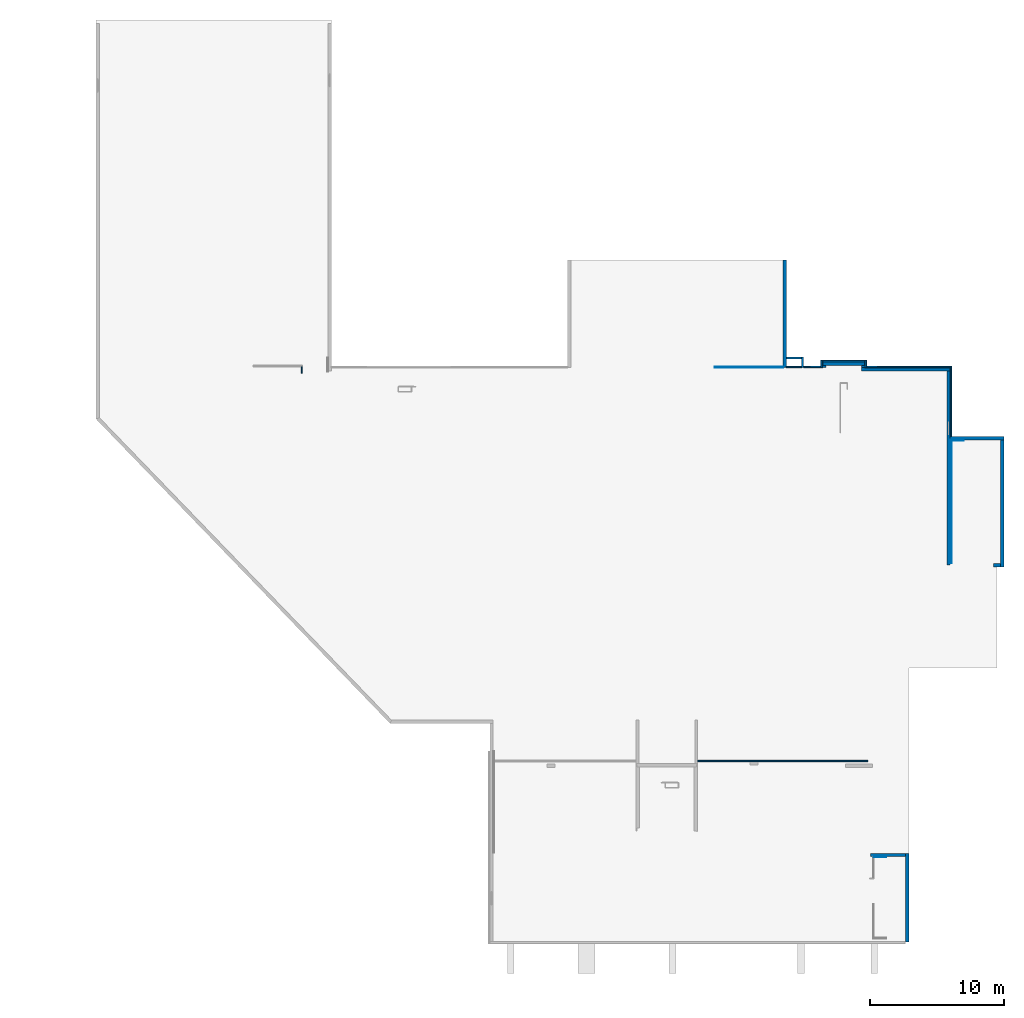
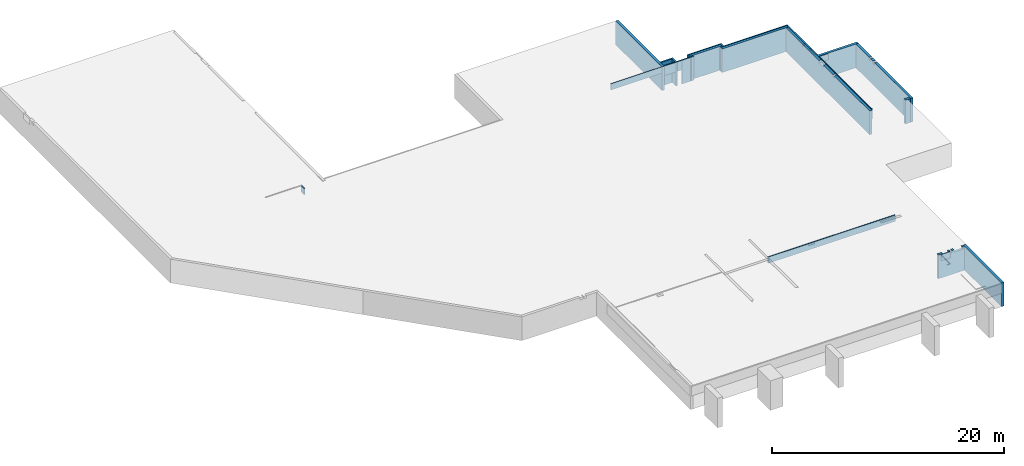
# One storey, part 5 of 10: 29 walls, 13 openings.
"""IFC2X3 building model written with IfcOpenShell, lengths in millimetres."""

from ifc_helpers import new_model, entity, si_unit, converted_unit, frame, frame_2d, origin, origin_with_axes, place, context, subcontext, project, spatial, polyline, rectangle, outline, extrude, faceted_brep, material, layer, layer_set, layer_usage, element, save


model = new_model("IFC2X3")

# Units and contexts
model_context = context("Model", 3, precision=1e-05, world=origin())
body_context = subcontext(model_context, "Body", "Model", "MODEL_VIEW")
ifc_project = project(units=[si_unit("LENGTHUNIT", "METRE", prefix="MILLI"), converted_unit("PLANEANGLEUNIT", "DEGREE", entity("IfcPlaneAngleMeasure", 0.0174532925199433), si_unit("PLANEANGLEUNIT", "RADIAN"), dimensions=[0, 0, 0, 0, 0, 0, 0]), si_unit("AREAUNIT", "SQUARE_METRE"), si_unit("VOLUMEUNIT", "CUBIC_METRE")], contexts=[model_context])

# Building, storey
building_placement = place(None, origin())
building = spatial("IfcBuilding", under=ifc_project, at=building_placement, Name="Gebäude", CompositionType="ELEMENT")
storey_placement = place(building_placement, frame((0.0, 0.0, -3205.0), z_axis=(0.0, 0.0, 1.0), x_axis=(1.0, 0.0, 0.0)))
storey = spatial("IfcBuildingStorey", under=building, at=storey_placement, Name="KG.- Grundriss", CompositionType="ELEMENT", Elevation=-3205.0)

# Walls
ifc_material_1 = material(Name="<Unnamed Material>")
ifc_layer_1 = layer(ifc_material_1, 60.0)
ifc_layer_set_1 = layer_set([ifc_layer_1])
ifc_layer_usage_1 = layer_usage(ifc_layer_set_1, "AXIS2", "POSITIVE", 0.0)
wall_1_placement = place(storey_placement, frame((258862.6842014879, 127805.0661829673, 5055.0), z_axis=(0.0, 0.0, 1.0), x_axis=(1.0, 0.0, 0.0)))
element("IfcWallStandardCase", 1, at=wall_1_placement, inside=storey, material=ifc_layer_usage_1, Name="<Unnamed Element>", context=body_context, shape_type="SweptSolid", body=[
    extrude(rectangle(XDim=5084.999999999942, YDim=60.0, at=frame_2d((2542.499999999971, 30.0), x_axis=(1.0, 0.0))), origin_with_axes(), (0.0, 0.0, 1.0), 650.0),
])
ifc_material_2 = material(Name="<Unnamed Material>")
ifc_layer_2 = layer(ifc_material_2, 60.0)
ifc_layer_set_2 = layer_set([ifc_layer_2])
ifc_layer_usage_2 = layer_usage(ifc_layer_set_2, "AXIS2", "POSITIVE", 0.0)
wall_2_placement = place(storey_placement, frame((277372.6842014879, 122435.0661829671, 5055.0), z_axis=(0.0, 0.0, 1.0), x_axis=(-1.0, 0.0, 0.0)))
element("IfcWallStandardCase", 2, at=wall_2_placement, inside=storey, material=ifc_layer_usage_2, Name="<Unnamed Element>", context=body_context, shape_type="SweptSolid", body=[
    extrude(rectangle(XDim=880.0, YDim=60.0, at=frame_2d((440.0, 30.0), x_axis=(1.0, 0.0))), origin_with_axes(), (0.0, 0.0, 1.0), 650.0),
])
ifc_material_3 = material(Name="<Unnamed Material>")
ifc_layer_3 = layer(ifc_material_3, 60.0)
ifc_layer_set_3 = layer_set([ifc_layer_3])
ifc_layer_usage_3 = layer_usage(ifc_layer_set_3, "AXIS2", "POSITIVE", 0.0)
wall_3_placement = place(storey_placement, frame((271607.7052904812, 91445.06618296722, 5055.0), z_axis=(0.0, 0.0, 1.0), x_axis=(-1.0, 1.590373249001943e-14, 0.0)))
element("IfcWallStandardCase", 3, at=wall_3_placement, inside=storey, material=ifc_layer_usage_3, Name="<Unnamed Element>", context=body_context, shape_type="SweptSolid", body=[
    extrude(rectangle(XDim=914.9999999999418, YDim=60.0, at=frame_2d((457.4999999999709, 30.0), x_axis=(1.0, 0.0))), origin_with_axes(), (0.0, 0.0, 1.0), 650.0),
])
ifc_material_4 = material(Name="<Unnamed Material>")
ifc_layer_4 = layer(ifc_material_4, 100.0)
ifc_layer_set_4 = layer_set([ifc_layer_4])
ifc_layer_usage_4 = layer_usage(ifc_layer_set_4, "AXIS2", "POSITIVE", 0.0)
wall_4_placement = place(storey_placement, frame((228107.684201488, 127880.0661829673, 5055.0), z_axis=(0.0, 0.0, 1.0), x_axis=(9.31155362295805e-13, -1.0, 0.0)))
element("IfcWallStandardCase", 4, at=wall_4_placement, inside=storey, material=ifc_layer_usage_4, Name="<Unnamed Element>", context=body_context, shape_type="SweptSolid", body=[
    extrude(outline(polyline([(0.0, 0.0), (500.0897875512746, 0.0), (500.0948599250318, 100.0), (5.804044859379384e-12, 100.0), (0.0, 0.0)])), origin_with_axes(), (0.0, 0.0, 1.0), 650.0),
])
ifc_material_5 = material(Name="<Unnamed Material>")
ifc_layer_5 = layer(ifc_material_5, 100.0)
ifc_layer_set_5 = layer_set([ifc_layer_5])
ifc_layer_usage_5 = layer_usage(ifc_layer_set_5, "AXIS2", "POSITIVE", 0.0)
wall_5_placement = place(storey_placement, frame((257582.7052904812, 98495.06618296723, 5055.0), z_axis=(0.0, 0.0, 1.0), x_axis=(1.0, 0.0, 0.0)))
element("IfcWallStandardCase", 5, at=wall_5_placement, inside=storey, material=ifc_layer_usage_5, Name="<Unnamed Element>", context=body_context, shape_type="SweptSolid", body=[
    extrude(rectangle(XDim=12639.97891100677, YDim=100.0, at=frame_2d((6319.989455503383, 50.0), x_axis=(1.0, 0.0))), origin_with_axes(), (0.0, 0.0, 1.0), 650.0),
])
ifc_material_6 = material(Name="<Unnamed Material>")
ifc_layer_6 = layer(ifc_material_6, 59.99999999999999)
ifc_layer_set_6 = layer_set([ifc_layer_6])
ifc_layer_usage_6 = layer_usage(ifc_layer_set_6, "AXIS2", "POSITIVE", 0.0)
wall_6_placement = place(storey_placement, frame((276432.6842014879, 113245.0661829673, 5055.0), z_axis=(0.0, 0.0, 1.0), x_axis=(6.375428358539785e-15, 0.9999999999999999, 0.0)))
element("IfcWallStandardCase", 6, at=wall_6_placement, inside=storey, material=ifc_layer_usage_6, Name="<Unnamed Element>", context=body_context, shape_type="SweptSolid", body=[
    extrude(rectangle(XDim=9129.999999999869, YDim=59.99999999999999, at=frame_2d((4564.999999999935, 30.0), x_axis=(1.0, 0.0))), origin_with_axes(), (0.0, 0.0, 1.0), 650.0),
])
ifc_material_7 = material(Name="<Unnamed Material>")
ifc_layer_7 = layer(ifc_material_7, 120.0)
ifc_layer_set_7 = layer_set([ifc_layer_7])
ifc_layer_usage_7 = layer_usage(ifc_layer_set_7, "AXIS2", "POSITIVE", 0.0)
wall_7_placement = place(storey_placement, frame((276492.6842014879, 127925.0661829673, 4705.0), z_axis=(0.0, 0.0, 1.0), x_axis=(-1.0, 0.0, 0.0)))
element("IfcWallStandardCase", 7, at=wall_7_placement, inside=storey, material=ifc_layer_usage_7, Name="<Unnamed Element>", context=body_context, shape_type="SweptSolid", body=[
    extrude(rectangle(XDim=5510.000000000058, YDim=120.0, at=frame_2d((2755.000000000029, 60.0), x_axis=(1.0, 0.0))), origin_with_axes(), (0.0, 0.0, 1.0), 1000.0),
])
ifc_material_8 = material(Name="<Unnamed Material>")
ifc_layer_8 = layer(ifc_material_8, 120.0)
ifc_layer_set_8 = layer_set([ifc_layer_8])
ifc_layer_usage_8 = layer_usage(ifc_layer_set_8, "AXIS2", "POSITIVE", 0.0)
wall_8_placement = place(storey_placement, frame((265932.6842014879, 127925.0661829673, 4705.0), z_axis=(0.0, 0.0, 1.0), x_axis=(-0.9999999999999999, 0.0, 0.0)))
element("IfcWallStandardCase", 8, at=wall_8_placement, inside=storey, material=ifc_layer_usage_8, Name="<Unnamed Element>", context=body_context, shape_type="SweptSolid", body=[
    extrude(outline(polyline([(605.0000000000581, 0.0), (1735.000000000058, 0.0), (1735.000000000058, 120.0), (605.0000000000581, 120.0), (605.0000000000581, 0.0)])), origin_with_axes(), (0.0, 0.0, 1.0), 1000.0),
])
ifc_material_9 = material(Name="<Unnamed Material>")
ifc_layer_9 = layer(ifc_material_9, 120.0)
ifc_layer_set_9 = layer_set([ifc_layer_9])
ifc_layer_usage_9 = layer_usage(ifc_layer_set_9, "AXIS2", "POSITIVE", 0.0)
wall_9_placement = place(storey_placement, frame((265932.6842014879, 127925.0661829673, 4705.0), z_axis=(0.0, 0.0, 1.0), x_axis=(-0.9999999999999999, 0.0, 0.0)))
element("IfcWallStandardCase", 9, at=wall_9_placement, inside=storey, material=ifc_layer_usage_9, Name="<Unnamed Element>", context=body_context, shape_type="SweptSolid", body=[
    extrude(outline(polyline([(455.0000000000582, 0.0), (455.0000000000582, 120.0), (0.0, 120.0), (0.0, 0.0), (455.0000000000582, 0.0)])), origin_with_axes(), (0.0, 0.0, 1.0), 1000.0),
])
ifc_material_10 = material(Name="Stb-Wand")
ifc_layer_10 = layer(ifc_material_10, 250.0)
ifc_layer_set_10 = layer_set([ifc_layer_10])
ifc_layer_usage_10 = layer_usage(ifc_layer_set_10, "AXIS2", "POSITIVE", 0.0)
wall_10_placement = place(storey_placement, frame((276372.6842014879, 127805.0661829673, 3205.0), z_axis=(0.0, 0.0, 1.0), x_axis=(-1.0, 0.0, 0.0)))
element("IfcWallStandardCase", 10, at=wall_10_placement, inside=storey, material=ifc_layer_usage_10, Name="<Unnamed Element>", context=body_context, shape_type="SweptSolid", body=[
    extrude(rectangle(XDim=6590.000000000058, YDim=250.0, at=frame_2d((3295.000000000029, 125.0), x_axis=(1.0, 0.0))), origin_with_axes(), (0.0, 0.0, 1.0), 2500.0),
])
ifc_material_11 = material(Name="<Unnamed Material>")
ifc_layer_11 = layer(ifc_material_11, 120.0)
ifc_layer_set_11 = layer_set([ifc_layer_11])
ifc_layer_usage_11 = layer_usage(ifc_layer_set_11, "AXIS2", "POSITIVE", 0.0)
wall_11_placement = place(storey_placement, frame((266762.6842014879, 127925.0661829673, 3205.0), z_axis=(0.0, 0.0, 1.0), x_axis=(-1.0, 0.0, 0.0)))
element("IfcWallStandardCase", 11, at=wall_11_placement, inside=storey, material=ifc_layer_usage_11, Name="<Unnamed Element>", context=body_context, shape_type="SweptSolid", body=[
    extrude(rectangle(XDim=830.0, YDim=120.0, at=frame_2d((415.0, 60.0), x_axis=(1.0, 0.0))), origin_with_axes(), (0.0, 0.0, 1.0), 2500.0),
])
ifc_material_12 = material(Name="<Unnamed Material>")
ifc_layer_12 = layer(ifc_material_12, 120.0)
ifc_layer_set_12 = layer_set([ifc_layer_12])
ifc_layer_usage_12 = layer_usage(ifc_layer_set_12, "AXIS2", "POSITIVE", 0.0)
wall_12_placement = place(storey_placement, frame((270982.6842014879, 127925.0661829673, 3205.0), z_axis=(0.0, 0.0, 1.0), x_axis=(-1.0, 0.0, 0.0)))
element("IfcWallStandardCase", 12, at=wall_12_placement, inside=storey, material=ifc_layer_usage_12, Name="<Unnamed Element>", context=body_context, shape_type="SweptSolid", body=[
    extrude(rectangle(XDim=829.9999999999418, YDim=120.0, at=frame_2d((414.9999999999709, 60.0), x_axis=(1.0, 0.0))), origin_with_axes(), (0.0, 0.0, 1.0), 2500.0),
])
ifc_material_13 = material(Name="<Unnamed Material>")
ifc_layer_13 = layer(ifc_material_13, 120.0)
ifc_layer_set_13 = layer_set([ifc_layer_13])
ifc_layer_usage_13 = layer_usage(ifc_layer_set_13, "AXIS2", "POSITIVE", 0.0)
wall_13_placement = place(storey_placement, frame((270032.684201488, 128350.0661829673, 3205.0), z_axis=(0.0, 0.0, 1.0), x_axis=(-1.0, 0.0, 0.0)))
element("IfcWallStandardCase", 13, at=wall_13_placement, inside=storey, material=ifc_layer_usage_13, Name="<Unnamed Element>", context=body_context, shape_type="SweptSolid", body=[
    extrude(rectangle(XDim=3150.000000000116, YDim=120.0, at=frame_2d((1575.000000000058, 60.0), x_axis=(1.0, 0.0))), origin_with_axes(), (0.0, 0.0, 1.0), 2500.0),
])
ifc_material_14 = material(Name="Stb-Wand")
ifc_layer_14 = layer(ifc_material_14, 250.0)
ifc_layer_set_14 = layer_set([ifc_layer_14])
ifc_layer_usage_14 = layer_usage(ifc_layer_set_14, "AXIS2", "POSITIVE", 0.0)
wall_14_placement = place(storey_placement, frame((270032.6842014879, 128230.0661829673, 3205.0), z_axis=(0.0, 0.0, 1.0), x_axis=(-1.0, 0.0, 0.0)))
element("IfcWallStandardCase", 14, at=wall_14_placement, inside=storey, material=ifc_layer_usage_14, Name="<Unnamed Element>", context=body_context, shape_type="SweptSolid", body=[
    extrude(rectangle(XDim=3150.0, YDim=250.0, at=frame_2d((1575.0, 125.0), x_axis=(1.0, 0.0))), origin_with_axes(), (0.0, 0.0, 1.0), 2500.0),
])
ifc_material_15 = material(Name="<Unnamed Material>")
ifc_layer_15 = layer(ifc_material_15, 120.0)
ifc_layer_set_15 = layer_set([ifc_layer_15])
ifc_layer_usage_15 = layer_usage(ifc_layer_set_15, "AXIS2", "POSITIVE", 0.0)
wall_15_placement = place(storey_placement, frame((266762.6842014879, 128350.0661829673, 3205.0), z_axis=(0.0, 0.0, 1.0), x_axis=(-1.068030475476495e-13, -1.0, 0.0)))
element("IfcWallStandardCase", 15, at=wall_15_placement, inside=storey, material=ifc_layer_usage_15, Name="<Unnamed Element>", context=body_context, shape_type="SweptSolid", body=[
    extrude(rectangle(XDim=544.9999999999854, YDim=120.0, at=frame_2d((272.4999999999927, 60.0), x_axis=(1.0, 0.0))), origin_with_axes(), (0.0, 0.0, 1.0), 2500.0),
])
ifc_material_16 = material(Name="Stb-Wand")
ifc_layer_16 = layer(ifc_material_16, 250.0)
ifc_layer_set_16 = layer_set([ifc_layer_16])
ifc_layer_usage_16 = layer_usage(ifc_layer_set_16, "AXIS2", "POSITIVE", 0.0)
wall_16_placement = place(storey_placement, frame((266882.6842014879, 127980.0661829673, 3205.0), z_axis=(0.0, 0.0, 1.0), x_axis=(-3.326152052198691e-13, -1.0, 0.0)))
element("IfcWallStandardCase", 16, at=wall_16_placement, inside=storey, material=ifc_layer_usage_16, Name="<Unnamed Element>", context=body_context, shape_type="SweptSolid", body=[
    extrude(rectangle(XDim=174.9999999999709, YDim=250.0, at=frame_2d((87.49999999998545, 125.0), x_axis=(1.0, 0.0))), origin_with_axes(), (0.0, 0.0, 1.0), 2500.0),
])
ifc_material_17 = material(Name="<Unnamed Material>")
ifc_layer_17 = layer(ifc_material_17, 120.0)
ifc_layer_set_17 = layer_set([ifc_layer_17])
ifc_layer_usage_17 = layer_usage(ifc_layer_set_17, "AXIS2", "POSITIVE", 0.0)
wall_17_placement = place(storey_placement, frame((270152.6842014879, 127805.0661829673, 3205.0), z_axis=(0.0, 0.0, 1.0), x_axis=(1.068030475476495e-13, 1.0, 0.0)))
element("IfcWallStandardCase", 17, at=wall_17_placement, inside=storey, material=ifc_layer_usage_17, Name="<Unnamed Element>", context=body_context, shape_type="SweptSolid", body=[
    extrude(rectangle(XDim=544.9999999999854, YDim=120.0, at=frame_2d((272.4999999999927, 60.0), x_axis=(1.0, 0.0))), origin_with_axes(), (0.0, 0.0, 1.0), 2500.0),
])
ifc_material_18 = material(Name="Stb-Wand")
ifc_layer_18 = layer(ifc_material_18, 250.0)
ifc_layer_set_18 = layer_set([ifc_layer_18])
ifc_layer_usage_18 = layer_usage(ifc_layer_set_18, "AXIS2", "POSITIVE", 0.0)
wall_18_placement = place(storey_placement, frame((270032.6842014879, 127805.0661829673, 3205.0), z_axis=(0.0, 0.0, 1.0), x_axis=(3.326152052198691e-13, 1.0, 0.0)))
element("IfcWallStandardCase", 18, at=wall_18_placement, inside=storey, material=ifc_layer_usage_18, Name="<Unnamed Element>", context=body_context, shape_type="SweptSolid", body=[
    extrude(rectangle(XDim=174.9999999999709, YDim=250.0, at=frame_2d((87.49999999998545, 125.0), x_axis=(1.0, 0.0))), origin_with_axes(), (0.0, 0.0, 1.0), 2500.0),
])

# Wall, openings
ifc_material_19 = material(Name="Stb-Wand")
ifc_layer_19 = layer(ifc_material_19, 250.0)
ifc_layer_set_19 = layer_set([ifc_layer_19])
ifc_layer_usage_19 = layer_usage(ifc_layer_set_19, "AXIS2", "POSITIVE", 0.0)
wall_19_placement = place(storey_placement, frame((280122.6842014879, 122435.0661829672, 3205.0), z_axis=(0.0, 0.0, 1.0), x_axis=(-6.166065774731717e-15, -1.0, 0.0)))
wall_19 = element("IfcWallStandardCase", 19, at=wall_19_placement, inside=storey, material=ifc_layer_usage_19, Name="<Unnamed Element>", context=body_context, shape_type="SweptSolid", body=[
    extrude(rectangle(XDim=9440.0, YDim=250.0, at=frame_2d((4720.0, 125.0), x_axis=(1.0, 0.0))), origin_with_axes(), (0.0, 0.0, 1.0), 2500.0),
])
opening_1_placement = place(wall_19_placement, frame((2309.724062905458, 2.980465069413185e-06, 2250.0), z_axis=(0.0, 1.0, 0.0), x_axis=(0.0, 0.0, 1.0)))
element("IfcOpeningElement", 20, at=opening_1_placement, cuts=wall_19, Name="Wanddurchbruch", ObjectType="Recess", context=body_context, shape_type="SweptSolid", body=[
    extrude(rectangle(XDim=250.0, YDim=200.0, at=frame_2d((125.0, 100.0), x_axis=(1.0, 0.0))), origin_with_axes(), (0.0, 0.0, 1.0), 249.9999999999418),
])
opening_2_placement = place(wall_19_placement, frame((2974.7240629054, 2.980523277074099e-06, 2250.0), z_axis=(0.0, 1.0, 0.0), x_axis=(0.0, 0.0, 1.0)))
element("IfcOpeningElement", 21, at=opening_2_placement, cuts=wall_19, Name="Wanddurchbruch", ObjectType="Recess", context=body_context, shape_type="SweptSolid", body=[
    extrude(rectangle(XDim=250.0, YDim=250.0, at=frame_2d((125.0, 125.0), x_axis=(1.0, 0.0))), origin_with_axes(), (0.0, 0.0, 1.0), 249.9999999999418),
])

# Walls
ifc_material_20 = material(Name="Stb-Wand")
ifc_layer_20 = layer(ifc_material_20, 250.0)
ifc_layer_set_20 = layer_set([ifc_layer_20])
ifc_layer_usage_20 = layer_usage(ifc_layer_set_20, "AXIS2", "POSITIVE", 0.0)
wall_20_placement = place(storey_placement, frame((279597.6842014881, 112995.0661829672, 3205.0), z_axis=(0.0, 0.0, 1.0), x_axis=(1.0, 0.0, 0.0)))
element("IfcWallStandardCase", 22, at=wall_20_placement, inside=storey, material=ifc_layer_usage_20, Name="<Unnamed Element>", context=body_context, shape_type="SweptSolid", body=[
    extrude(rectangle(XDim=524.9999999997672, YDim=250.0, at=frame_2d((262.4999999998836, 125.0), x_axis=(1.0, 0.0))), origin_with_axes(), (0.0, 0.0, 1.0), 2500.0),
])
ifc_material_21 = material(Name="Stb-Wand")
ifc_layer_21 = layer(ifc_material_21, 150.0)
ifc_layer_set_21 = layer_set([ifc_layer_21])
ifc_layer_usage_21 = layer_usage(ifc_layer_set_21, "AXIS2", "POSITIVE", 0.0)
wall_21_placement = place(storey_placement, frame((265327.6842014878, 128580.0661829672, 3205.0), z_axis=(0.0, 0.0, 1.0), x_axis=(0.0, -1.0, 0.0)))
element("IfcWallStandardCase", 23, at=wall_21_placement, inside=storey, material=ifc_layer_usage_21, Name="<Unnamed Element>", context=body_context, shape_type="SweptSolid", body=[
    extrude(rectangle(XDim=775.0, YDim=150.0, at=frame_2d((387.5, 75.0), x_axis=(1.0, 0.0))), origin_with_axes(), (0.0, 0.0, 1.0), 2500.0),
])
ifc_material_22 = material(Name="Stb-Wand")
ifc_layer_22 = layer(ifc_material_22, 150.0)
ifc_layer_set_22 = layer_set([ifc_layer_22])
ifc_layer_usage_22 = layer_usage(ifc_layer_set_22, "AXIS2", "POSITIVE", 0.0)
wall_22_placement = place(storey_placement, frame((264197.6842014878, 128430.0661829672, 3205.0), z_axis=(0.0, 0.0, 1.0), x_axis=(1.0, 1.287780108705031e-14, 0.0)))
element("IfcWallStandardCase", 24, at=wall_22_placement, inside=storey, material=ifc_layer_usage_22, Name="<Unnamed Element>", context=body_context, shape_type="SweptSolid", body=[
    extrude(rectangle(XDim=1130.0, YDim=150.0, at=frame_2d((565.0, 75.0), x_axis=(1.0, 0.0))), origin_with_axes(), (0.0, 0.0, 1.0), 2500.0),
])
ifc_material_23 = material(Name="Stb-Wand")
ifc_layer_23 = layer(ifc_material_23, 249.9999999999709)
ifc_layer_set_23 = layer_set([ifc_layer_23])
ifc_layer_usage_23 = layer_usage(ifc_layer_set_23, "AXIS2", "POSITIVE", 0.0)
wall_23_placement = place(storey_placement, frame((276372.6842014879, 122435.0661829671, 3205.0), z_axis=(0.0, 0.0, 1.0), x_axis=(1.0, 1.818989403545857e-14, 0.0)))
element("IfcWallStandardCase", 25, at=wall_23_placement, inside=storey, material=ifc_layer_usage_23, Name="<Unnamed Element>", context=body_context, shape_type="SweptSolid", body=[
    extrude(rectangle(XDim=4000.0, YDim=249.9999999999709, at=frame_2d((2000.0, 124.9999999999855), x_axis=(1.0, 0.0))), origin_with_axes(), (0.0, 0.0, 1.0), 2500.0),
])
ifc_material_24 = material(Name="Stb-Wand")
ifc_layer_24 = layer(ifc_material_24, 250.0)
ifc_layer_set_24 = layer_set([ifc_layer_24])
ifc_layer_usage_24 = layer_usage(ifc_layer_set_24, "AXIS2", "POSITIVE", 0.0)
wall_24_placement = place(storey_placement, frame((273297.6842014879, 85095.06618296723, 3205.0), z_axis=(0.0, 0.0, 1.0), x_axis=(0.0, 0.9999999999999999, 0.0)))
element("IfcWallStandardCase", 26, at=wall_24_placement, inside=storey, material=ifc_layer_usage_24, Name="<Unnamed Element>", context=body_context, shape_type="SweptSolid", body=[
    extrude(rectangle(XDim=6589.999999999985, YDim=250.0, at=frame_2d((3294.999999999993, 125.0), x_axis=(1.0, 0.0))), origin_with_axes(), (0.0, 0.0, 1.0), 2500.0),
])

# Wall, openings
ifc_material_25 = material(Name="Stb-Wand")
ifc_layer_25 = layer(ifc_material_25, 240.0)
ifc_layer_set_25 = layer_set([ifc_layer_25])
ifc_layer_usage_25 = layer_usage(ifc_layer_set_25, "AXIS2", "POSITIVE", 0.0)
wall_25_placement = place(storey_placement, frame((273047.6842014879, 91685.06618296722, 3205.0), z_axis=(0.0, 0.0, 1.0), x_axis=(-1.0, 5.564830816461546e-15, 0.0)))
wall_25 = element("IfcWallStandardCase", 27, at=wall_25_placement, inside=storey, material=ifc_layer_usage_25, Name="<Unnamed Element>", context=body_context, shape_type="SweptSolid", body=[
    extrude(rectangle(XDim=2614.978911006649, YDim=240.0, at=frame_2d((1307.489455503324, 120.0), x_axis=(1.0, 0.0))), origin_with_axes(), (0.0, 0.0, 1.0), 2500.0),
])
opening_3_placement = place(wall_25_placement, frame((1589.999999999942, 2.682296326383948e-06, 2250.0), z_axis=(0.0, 1.0, 0.0), x_axis=(0.0, 0.0, 1.0)))
element("IfcOpeningElement", 28, at=opening_3_placement, cuts=wall_25, Name="Wanddurchbruch", ObjectType="Recess", context=body_context, shape_type="SweptSolid", body=[
    extrude(rectangle(XDim=250.0, YDim=570.0, at=frame_2d((125.0, 285.0), x_axis=(1.0, 0.0))), origin_with_axes(), (0.0, 0.0, 1.0), 239.9999973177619),
])
opening_4_placement = place(wall_25_placement, frame((49.99999999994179, 3.570385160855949e-06, 2250.0), z_axis=(0.0, 1.0, 0.0), x_axis=(0.0, 0.0, 1.0)))
element("IfcOpeningElement", 29, at=opening_4_placement, cuts=wall_25, Name="Wanddurchbruch", ObjectType="Recess", context=body_context, shape_type="SweptSolid", body=[
    extrude(rectangle(XDim=250.0, YDim=60.0, at=frame_2d((125.0, 30.0), x_axis=(1.0, 0.0))), origin_with_axes(), (0.0, 0.0, 1.0), 239.9999968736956),
])
opening_5_placement = place(wall_25_placement, frame((1249.999999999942, 2.682238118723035e-06, 2250.0), z_axis=(0.0, 1.0, 0.0), x_axis=(0.0, 0.0, 1.0)))
element("IfcOpeningElement", 30, at=opening_5_placement, cuts=wall_25, Name="Wanddurchbruch", ObjectType="Recess", context=body_context, shape_type="SweptSolid", body=[
    extrude(rectangle(XDim=250.0, YDim=180.0, at=frame_2d((125.0, 90.0), x_axis=(1.0, 0.0))), origin_with_axes(), (0.0, 0.0, 1.0), 239.9999973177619),
])
opening_6_placement = place(wall_25_placement, frame((225.0, 2.682267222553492e-06, 2250.0), z_axis=(0.0, 1.0, 0.0), x_axis=(0.0, 0.0, 1.0)))
element("IfcOpeningElement", 31, at=opening_6_placement, cuts=wall_25, Name="Wanddurchbruch", ObjectType="Recess", context=body_context, shape_type="SweptSolid", body=[
    extrude(rectangle(XDim=250.0, YDim=675.0, at=frame_2d((125.0, 337.5), x_axis=(1.0, 0.0))), origin_with_axes(), (0.0, 0.0, 1.0), 239.9999973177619),
])
opening_7_placement = place(wall_25_placement, frame((544.9999999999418, 4.619374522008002e-06, 2250.0), z_axis=(0.0, 1.0, 0.0), x_axis=(0.0, 0.0, 1.0)))
element("IfcOpeningElement", 32, at=opening_7_placement, cuts=wall_25, Name="Wanddurchbruch", ObjectType="Recess", context=body_context, shape_type="SweptSolid", body=[
    extrude(rectangle(XDim=250.0, YDim=130.0, at=frame_2d((125.0, 65.0), x_axis=(1.0, 0.0))), origin_with_axes(), (0.0, 0.0, 1.0), 239.9999973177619),
])
opening_8_placement = place(wall_25_placement, frame((864.9999999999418, 2.682238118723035e-06, 2250.0), z_axis=(0.0, 1.0, 0.0), x_axis=(0.0, 0.0, 1.0)))
element("IfcOpeningElement", 33, at=opening_8_placement, cuts=wall_25, Name="Wanddurchbruch", ObjectType="Recess", context=body_context, shape_type="SweptSolid", body=[
    extrude(rectangle(XDim=250.0, YDim=180.0, at=frame_2d((125.0, 90.0), x_axis=(1.0, 0.0))), origin_with_axes(), (0.0, 0.0, 1.0), 239.9999973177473),
])
opening_9_placement = place(wall_25_placement, frame((239.9999999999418, 4.619447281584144e-06, 2250.0), z_axis=(0.0, 1.0, 0.0), x_axis=(0.0, 0.0, 1.0)))
element("IfcOpeningElement", 34, at=opening_9_placement, cuts=wall_25, Name="Wanddurchbruch", ObjectType="Recess", context=body_context, shape_type="SweptSolid", body=[
    extrude(rectangle(XDim=250.0, YDim=130.0, at=frame_2d((125.0, 65.0), x_axis=(1.0, 0.0))), origin_with_axes(), (0.0, 0.0, 1.0), 239.9999973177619),
])

ifc_material_26 = material(Name="Stb-Wand")
ifc_layer_26 = layer(ifc_material_26, 250.0)
ifc_layer_set_26 = layer_set([ifc_layer_26])
ifc_layer_usage_26 = layer_usage(ifc_layer_set_26, "AXIS2", "POSITIVE", 0.0)
wall_26_placement = place(storey_placement, frame((276122.6842014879, 127555.0661829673, 3205.0), z_axis=(0.0, 0.0, 1.0), x_axis=(-4.03519313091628e-15, -0.9999999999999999, 0.0)))
wall_26 = element("IfcWallStandardCase", 35, at=wall_26_placement, inside=storey, material=ifc_layer_usage_26, Name="<Unnamed Element>", context=body_context, shape_type="SweptSolid", body=[
    extrude(rectangle(XDim=14425.00000000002, YDim=250.0, at=frame_2d((7212.500000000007, 125.0), x_axis=(1.0, 0.0))), origin_with_axes(), (0.0, 0.0, 1.0), 2500.0),
])
opening_10_placement = place(wall_26_placement, frame((3740.0, 0.0, 1899.99), z_axis=(0.0, 1.0, 0.0), x_axis=(0.0, 0.0, 1.0)))
element("IfcOpeningElement", 36, at=opening_10_placement, cuts=wall_26, Name="Fensteröffnung", ObjectType="Opening", context=body_context, shape_type="Brep", body=[
    faceted_brep([(0.009999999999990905, 1.455191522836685e-11, 250.0), (0.009999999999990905, 1.455191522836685e-11, 199.4999999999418), (0.009999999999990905, 1010.000000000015, 199.4999999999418), (0.009999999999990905, 1010.000000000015, 250.0), (600.01, 1.455191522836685e-11, 199.4999999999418), (600.01, 1.455191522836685e-11, 250.0), (600.01, 1010.000000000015, 250.0), (600.01, 1010.000000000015, 199.4999999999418), (0.009999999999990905, 1.455191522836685e-11, 199.4999999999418), (0.009999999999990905, 1.455191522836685e-11, 250.0), (600.01, 1.455191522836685e-11, 250.0), (600.01, 1.455191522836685e-11, 199.4999999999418), (0.009999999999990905, 1010.000000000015, 199.4999999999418), (0.009999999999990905, 1.455191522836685e-11, 199.4999999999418), (600.01, 1.455191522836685e-11, 199.4999999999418), (600.01, 1010.000000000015, 199.4999999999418), (0.009999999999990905, 1010.000000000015, 250.0), (0.009999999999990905, 1010.000000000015, 199.4999999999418), (600.01, 1010.000000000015, 199.4999999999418), (600.01, 1010.000000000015, 250.0), (0.009999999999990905, 1.455191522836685e-11, 250.0), (0.009999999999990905, 1010.000000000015, 250.0), (600.01, 1010.000000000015, 250.0), (600.01, 1.455191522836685e-11, 250.0)], [[[0, 1, 2, 3]], [[4, 5, 6, 7]], [[8, 9, 10, 11]], [[12, 13, 14, 15]], [[16, 17, 18, 19]], [[20, 21, 22, 23]]], orient=[[False], [False], [False], [False], [False], [False]]),
])
opening_11_placement = place(wall_26_placement, frame((5685.000003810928, -5.820766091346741e-11, 2250.0), z_axis=(0.0, 1.0, 0.0), x_axis=(0.0, 0.0, 1.0)))
element("IfcOpeningElement", 37, at=opening_11_placement, cuts=wall_26, Name="Wanddurchbruch", ObjectType="Recess", context=body_context, shape_type="SweptSolid", body=[
    extrude(rectangle(XDim=250.0, YDim=800.0, at=frame_2d((125.0, 400.0), x_axis=(1.0, 0.0))), origin_with_axes(), (0.0, 0.0, 1.0), 250.0000000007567),
])
opening_12_placement = place(wall_26_placement, frame((8095.000003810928, 2.682267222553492e-06, 2250.0), z_axis=(0.0, 1.0, 0.0), x_axis=(0.0, 0.0, 1.0)))
element("IfcOpeningElement", 38, at=opening_12_placement, cuts=wall_26, Name="Wanddurchbruch", ObjectType="Recess", context=body_context, shape_type="SweptSolid", body=[
    extrude(rectangle(XDim=250.0, YDim=250.0, at=frame_2d((125.0, 125.0), x_axis=(1.0, 0.0))), origin_with_axes(), (0.0, 0.0, 1.0), 250.0000001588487),
])
opening_13_placement = place(wall_26_placement, frame((2890.085368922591, -5.820766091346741e-11, 2250.0), z_axis=(0.0, 1.0, 0.0), x_axis=(0.0, 0.0, 1.0)))
element("IfcOpeningElement", 39, at=opening_13_placement, cuts=wall_26, Name="Wanddurchbruch", ObjectType="Recess", context=body_context, shape_type="SweptSolid", body=[
    extrude(rectangle(XDim=250.0, YDim=100.0, at=frame_2d((125.0, 50.0), x_axis=(1.0, 0.0))), origin_with_axes(), (0.0, 0.0, 1.0), 250.0000000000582),
])

# Walls
ifc_material_27 = material(Name="<Unnamed Material>")
ifc_layer_27 = layer(ifc_material_27, 119.9999999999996)
ifc_layer_set_27 = layer_set([ifc_layer_27])
ifc_layer_usage_27 = layer_usage(ifc_layer_set_27, "AXIS2", "POSITIVE", 0.0)
wall_27_placement = place(storey_placement, frame((276492.6842014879, 113245.0661829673, 4705.0), z_axis=(0.0, 0.0, 1.0), x_axis=(6.333804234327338e-15, 1.0, 0.0)))
element("IfcWallStandardCase", 40, at=wall_27_placement, inside=storey, material=ifc_layer_usage_27, Name="<Unnamed Element>", context=body_context, shape_type="SweptSolid", body=[
    extrude(outline(polyline([(0.0, 0.0), (9189.999999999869, 0.0), (9189.999999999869, 120.0), (9129.999999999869, 119.9999999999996), (9129.999999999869, 59.99999999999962), (-3.800282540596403e-13, 60.0), (0.0, 0.0)])), origin_with_axes(), (0.0, 0.0, 1.0), 1000.0),
])
ifc_material_28 = material(Name="<Unnamed Material>")
ifc_layer_28 = layer(ifc_material_28, 120.0)
ifc_layer_set_28 = layer_set([ifc_layer_28])
ifc_layer_usage_28 = layer_usage(ifc_layer_set_28, "AXIS2", "POSITIVE", 0.0)
wall_28_placement = place(storey_placement, frame((276492.6842014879, 122685.0661829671, 4705.0), z_axis=(0.0, 0.0, 1.0), x_axis=(1.136868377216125e-14, 1.0, 0.0)))
element("IfcWallStandardCase", 41, at=wall_28_placement, inside=storey, material=ifc_layer_usage_28, Name="<Unnamed Element>", context=body_context, shape_type="SweptSolid", body=[
    extrude(outline(polyline([(0.0, 0.0), (5120.00000000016, 0.0), (5120.000000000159, 120.0), (1130.000000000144, 120.0000000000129), (-1.36424205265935e-12, 120.0), (0.0, 0.0)])), origin_with_axes(), (0.0, 0.0, 1.0), 1000.0),
])
ifc_material_29 = material(Name="Stb-Wand")
ifc_layer_29 = layer(ifc_material_29, 250.0)
ifc_layer_set_29 = layer_set([ifc_layer_29])
ifc_layer_usage_29 = layer_usage(ifc_layer_set_29, "AXIS2", "POSITIVE", 0.0)
wall_29_placement = place(storey_placement, frame((263947.684201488, 135805.0661829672, 3205.0), z_axis=(0.0, 0.0, 1.0), x_axis=(-2.910383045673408e-14, -1.0, 0.0)))
element("IfcWallStandardCase", 42, at=wall_29_placement, inside=storey, material=ifc_layer_usage_29, Name="<Unnamed Element>", context=body_context, shape_type="SweptSolid", body=[
    extrude(rectangle(XDim=7999.999999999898, YDim=250.0, at=frame_2d((3999.999999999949, 125.0), x_axis=(1.0, 0.0))), origin_with_axes(), (0.0, 0.0, 1.0), 2500.0),
])

save(model, "model.ifc")
